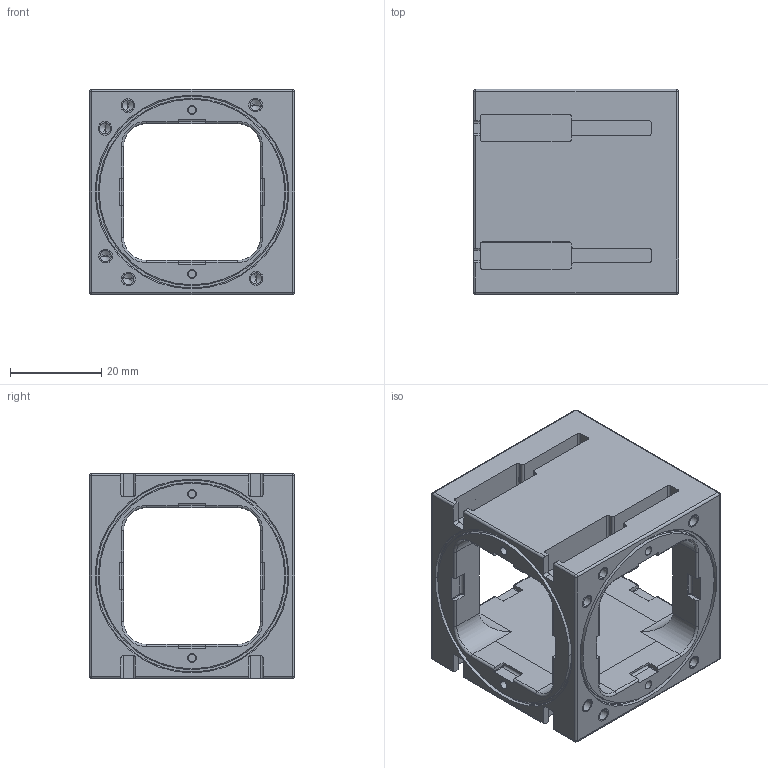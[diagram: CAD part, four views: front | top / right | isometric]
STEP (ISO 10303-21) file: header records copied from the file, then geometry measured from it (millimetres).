
FILE_DESCRIPTION(/* description */ ('VariCAD 2017-2.10 AP-214'),/* implementation_level */ '2;1');
FILE_NAME(/* name */ '01_cube.stp',/* time_stamp */ '2023-12-21T11:01:55+02:00',/* author */ (''),/* organization */ (''),/* preprocessor_version */ 'VariCAD 2017-2.10',/* originating_system */ 'VariCAD 2017-2.10; kernel version (20130303)',/* authorisation */ '');
FILE_SCHEMA(('AUTOMOTIVE_DESIGN'));
Length unit declared in the file: millimetre
Products named in the file (2): 01_cube
Assembly tree (1 placements, depth 2):
  01_cube
    (unnamed)
Bounding box: 45 x 45 x 45 mm (x, y, z)
Volume: 32142.2 mm3; surface area: 17651.1 mm2
Topology: 1 solids, 1 shells, 598 faces, 1497 edges, 907 vertices
Faces by surface type: cylinder 296, plane 174, torus 64, cone 56, sphere 8
Entity records: 21485 total; most frequent: DIRECTION 3328, CARTESIAN_POINT 3094, ORIENTED_EDGE 2898, EDGE_CURVE 1449, AXIS2_PLACEMENT_3D 1285, VERTEX_POINT 907, LINE 758, VECTOR 758
